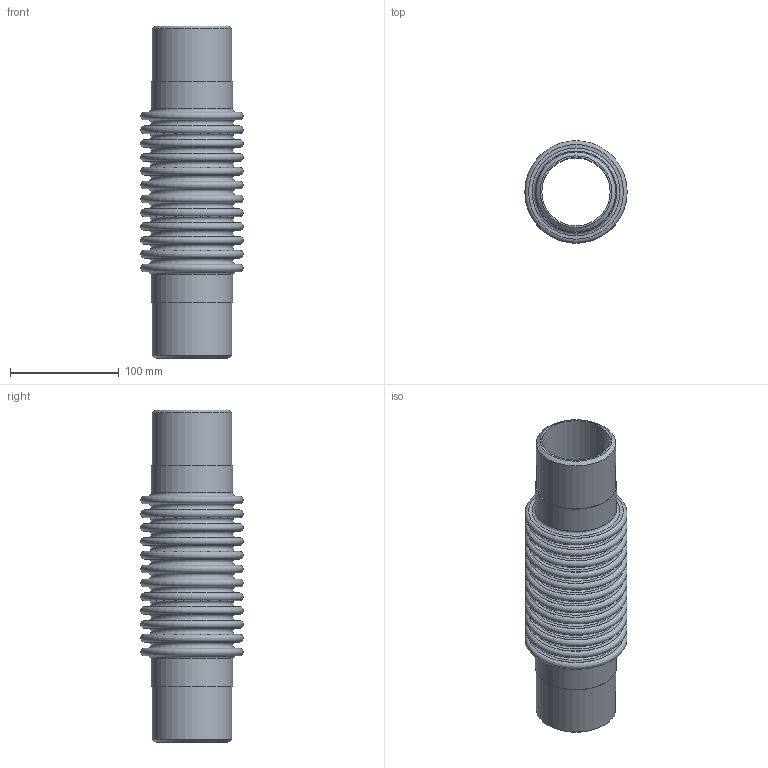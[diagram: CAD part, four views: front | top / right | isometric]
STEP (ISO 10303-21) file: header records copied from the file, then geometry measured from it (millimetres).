
FILE_DESCRIPTION(/* description */ ('EXPANSION JOINT,SINGLE, WELD ENDS,4 INCH NOMINAL'),/* implementation_level */ '2;1');
FILE_NAME(/* name */ 'ASSEMBLY US- 2.5 -12-300L.stp',/* time_stamp */ '2026-07-30T08:43:28-05:00',/* author */ ('jorgef'),/* organization */ (''),/* preprocessor_version */ 'ST-DEVELOPER v20.1',/* originating_system */ 'Autodesk Inventor 2026',/* authorisation */ '');
FILE_SCHEMA (('AUTOMOTIVE_DESIGN { 1 0 10303 214 3 1 1 }'));
Length unit declared in the file: inch
Products named in the file (3): ASSEMBLY  US- 2.5 -12-300L; STOCK BELLOW - US- 2.5 -12-300L; PIPE- US- 2.5 -12-300L
Assembly tree (3 placements, depth 2):
  ASSEMBLY  US- 2.5 -12-300L
    STOCK BELLOW - US- 2.5 -12-300L
    PIPE- US- 2.5 -12-300L  x2
Bounding box: 93.98 x 93.98 x 304.8 mm (x, y, z)
Volume: 223360.7 mm3; surface area: 259622.5 mm2
Topology: 5 solids, 5 shells, 118 faces, 180 edges, 121 vertices
Faces by surface type: plane 58, torus 50, cylinder 8, cone 2
Full cylindrical faces by diameter (mm): 62.713 x2, 73.025 x2, 73.66 x2, 74.879 x2
Entity records: 2769 total; most frequent: DIRECTION 573, CARTESIAN_POINT 405, ORIENTED_EDGE 342, AXIS2_PLACEMENT_3D 283, EDGE_CURVE 171, EDGE_LOOP 169, CIRCLE 164, VERTEX_POINT 114
